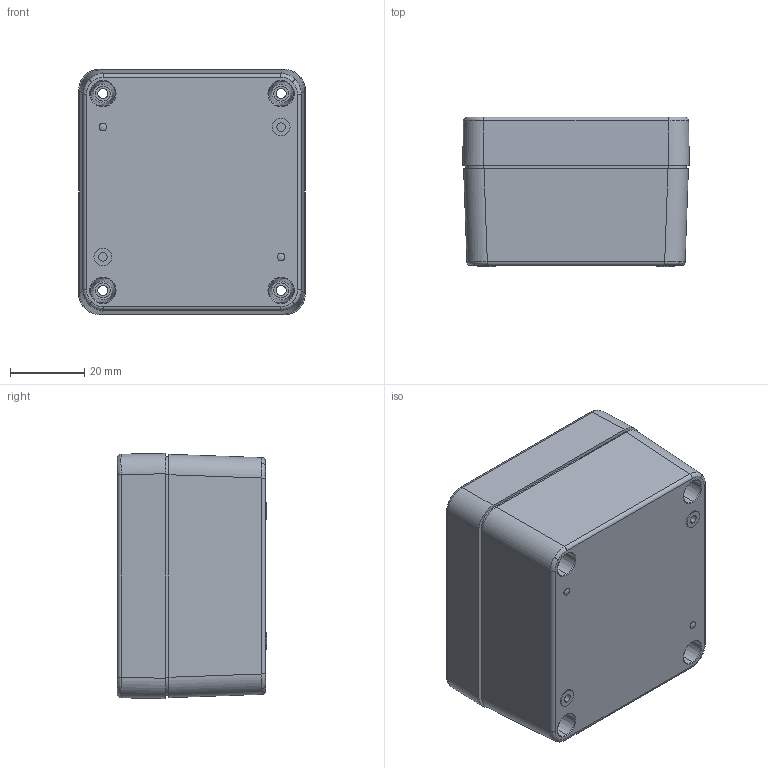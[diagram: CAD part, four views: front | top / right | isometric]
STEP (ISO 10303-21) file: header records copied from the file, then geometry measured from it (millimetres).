
FILE_DESCRIPTION (( 'STEP AP214' ), '1' );
FILE_NAME ('BEN-10.STEP', '2020-02-26T14:50:35', ( 'Rudy' ), ( '' ), 'SwSTEP 2.0', 'SolidWorks 2014', '' );
FILE_SCHEMA (( 'AUTOMOTIVE_DESIGN' ));
Length unit declared in the file: millimetre
Products named in the file (5): Thread insert; BEN-10 Seal; BEN-10 Top; BEN-10 Bottom; BEN-10
Assembly tree (7 placements, depth 2):
  BEN-10
    BEN-10 Bottom
    BEN-10 Top
    BEN-10 Seal
    Thread insert  x4
Bounding box: 61.05 x 40.2 x 66.05 mm (x, y, z)
Volume: 52042.2 mm3; surface area: 39530.9 mm2
Topology: 7 solids, 7 shells, 463 faces, 1150 edges, 724 vertices
Faces by surface type: cylinder 160, plane 147, torus 73, bspline 52, cone 31
Entity records: 14963 total; most frequent: CARTESIAN_POINT 4445, ORIENTED_EDGE 2228, DIRECTION 2083, EDGE_CURVE 1114, AXIS2_PLACEMENT_3D 782, VERTEX_POINT 700, VECTOR 519, LINE 519
